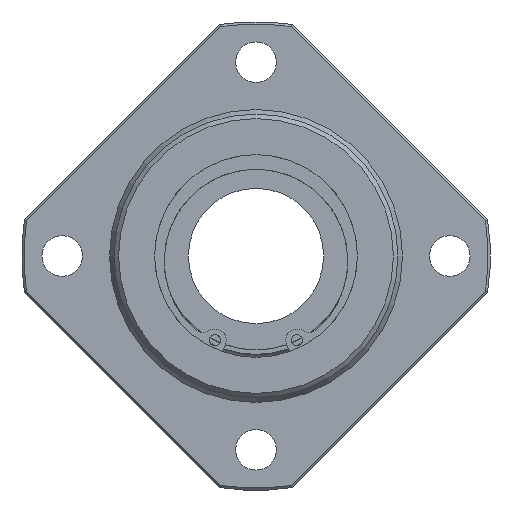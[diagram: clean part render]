
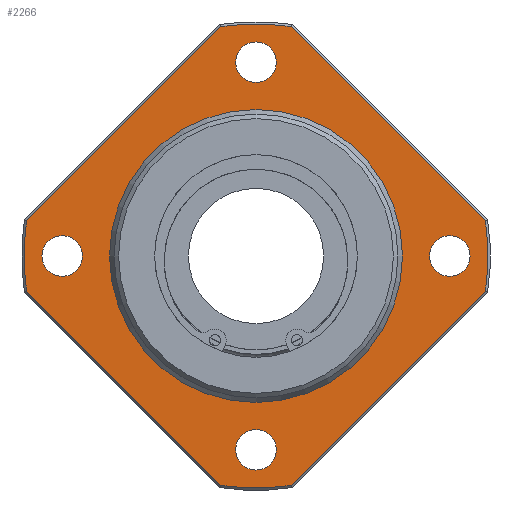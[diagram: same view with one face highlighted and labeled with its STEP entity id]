
A CAD part, left-side view. The second image highlights one B-rep face of the part: STEP entity #2266.
In plain terms, the highlighted planar face has unit normal (-1, 0, 0).
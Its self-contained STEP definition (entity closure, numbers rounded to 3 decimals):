
#1953=CARTESIAN_POINT('',(138.0,-7.781,-50.909));
#1954=VERTEX_POINT('',#1953);
#1962=CARTESIAN_POINT('',(138.0,7.781,-50.909));
#1963=VERTEX_POINT('',#1962);
#1964=CARTESIAN_POINT('',(138.0,0.0,0.0));
#1965=DIRECTION('',(1.0,0.0,0.0));
#1966=DIRECTION('',(0.0,0.0,-1.0));
#1967=AXIS2_PLACEMENT_3D('',#1964,#1965,#1966);
#1968=CIRCLE('',#1967,51.5);
#1969=EDGE_CURVE('',#1954,#1963,#1968,.T.);
#1988=CARTESIAN_POINT('',(138.0,50.909,-7.781));
#1989=VERTEX_POINT('',#1988);
#1990=CARTESIAN_POINT('',(138.0,7.781,-50.909));
#1991=DIRECTION('',(0.0,0.707,0.707));
#1992=VECTOR('',#1991,60.992);
#1993=LINE('',#1990,#1992);
#1994=EDGE_CURVE('',#1963,#1989,#1993,.T.);
#2021=CARTESIAN_POINT('',(138.0,50.909,7.781));
#2022=VERTEX_POINT('',#2021);
#2023=CARTESIAN_POINT('',(138.0,0.0,0.0));
#2024=DIRECTION('',(1.0,0.0,0.0));
#2025=DIRECTION('',(0.0,0.0,1.0));
#2026=AXIS2_PLACEMENT_3D('',#2023,#2024,#2025);
#2027=CIRCLE('',#2026,51.5);
#2028=EDGE_CURVE('',#1989,#2022,#2027,.T.);
#2054=CARTESIAN_POINT('',(138.0,7.781,50.909));
#2055=VERTEX_POINT('',#2054);
#2056=CARTESIAN_POINT('',(138.0,50.909,7.781));
#2057=DIRECTION('',(0.0,-0.707,0.707));
#2058=VECTOR('',#2057,60.992);
#2059=LINE('',#2056,#2058);
#2060=EDGE_CURVE('',#2022,#2055,#2059,.T.);
#2087=CARTESIAN_POINT('',(138.0,-7.781,50.909));
#2088=VERTEX_POINT('',#2087);
#2089=CARTESIAN_POINT('',(138.0,0.0,0.0));
#2090=DIRECTION('',(1.0,0.0,0.0));
#2091=DIRECTION('',(0.0,0.0,1.0));
#2092=AXIS2_PLACEMENT_3D('',#2089,#2090,#2091);
#2093=CIRCLE('',#2092,51.5);
#2094=EDGE_CURVE('',#2055,#2088,#2093,.T.);
#2118=CARTESIAN_POINT('',(138.0,-50.909,7.781));
#2119=VERTEX_POINT('',#2118);
#2120=CARTESIAN_POINT('',(138.0,-7.781,50.909));
#2121=DIRECTION('',(0.0,-0.707,-0.707));
#2122=VECTOR('',#2121,60.992);
#2123=LINE('',#2120,#2122);
#2124=EDGE_CURVE('',#2088,#2119,#2123,.T.);
#2143=CARTESIAN_POINT('',(138.0,-50.909,-7.781));
#2144=VERTEX_POINT('',#2143);
#2145=CARTESIAN_POINT('',(138.0,0.0,0.0));
#2146=DIRECTION('',(1.0,0.0,0.0));
#2147=DIRECTION('',(0.0,0.0,1.0));
#2148=AXIS2_PLACEMENT_3D('',#2145,#2146,#2147);
#2149=CIRCLE('',#2148,51.5);
#2150=EDGE_CURVE('',#2119,#2144,#2149,.T.);
#2169=CARTESIAN_POINT('',(138.0,-50.909,-7.781));
#2170=DIRECTION('',(0.0,0.707,-0.707));
#2171=VECTOR('',#2170,60.992);
#2172=LINE('',#2169,#2171);
#2173=EDGE_CURVE('',#2144,#1954,#2172,.T.);
#2196=CARTESIAN_POINT('',(138.0,0.0,42.25));
#2197=DIRECTION('',(-1.0,0.0,0.0));
#2198=DIRECTION('',(0.0,0.0,1.0));
#2199=AXIS2_PLACEMENT_3D('',#2196,#2197,#2198);
#2200=PLANE('',#2199);
#2201=ORIENTED_EDGE('',*,*,#1969,.F.);
#2202=ORIENTED_EDGE('',*,*,#2173,.F.);
#2203=ORIENTED_EDGE('',*,*,#2150,.F.);
#2204=ORIENTED_EDGE('',*,*,#2124,.F.);
#2205=ORIENTED_EDGE('',*,*,#2094,.F.);
#2206=ORIENTED_EDGE('',*,*,#2060,.F.);
#2207=ORIENTED_EDGE('',*,*,#2028,.F.);
#2208=ORIENTED_EDGE('',*,*,#1994,.F.);
#2209=EDGE_LOOP('',(#2201,#2202,#2203,#2204,#2205,#2206,#2207,#2208));
#2210=FACE_OUTER_BOUND('',#2209,.T.);
#2211=CARTESIAN_POINT('',(138.0,0.0,32.5));
#2212=VERTEX_POINT('',#2211);
#2213=CARTESIAN_POINT('',(138.0,0.0,0.0));
#2214=DIRECTION('',(-1.0,0.0,0.0));
#2215=DIRECTION('',(0.0,0.0,1.0));
#2216=AXIS2_PLACEMENT_3D('',#2213,#2214,#2215);
#2217=CIRCLE('',#2216,32.5);
#2218=EDGE_CURVE('',#2212,#2212,#2217,.T.);
#2219=ORIENTED_EDGE('',*,*,#2218,.F.);
#2220=EDGE_LOOP('',(#2219));
#2221=FACE_BOUND('',#2220,.T.);
#2222=CARTESIAN_POINT('',(138.0,4.5,43.0));
#2223=VERTEX_POINT('',#2222);
#2224=CARTESIAN_POINT('',(138.,0.,43.0));
#2225=DIRECTION('',(1.0,0.0,0.0));
#2226=DIRECTION('',(0.0,1.0,0.0));
#2227=AXIS2_PLACEMENT_3D('',#2224,#2225,#2226);
#2228=CIRCLE('',#2227,4.5);
#2229=EDGE_CURVE('',#2223,#2223,#2228,.T.);
#2230=ORIENTED_EDGE('',*,*,#2229,.T.);
#2231=EDGE_LOOP('',(#2230));
#2232=FACE_BOUND('',#2231,.T.);
#2233=CARTESIAN_POINT('',(138.0,-43.0,4.5));
#2234=VERTEX_POINT('',#2233);
#2235=CARTESIAN_POINT('',(138.,-43.0,0.));
#2236=DIRECTION('',(1.0,0.0,0.0));
#2237=DIRECTION('',(0.0,0.0,1.0));
#2238=AXIS2_PLACEMENT_3D('',#2235,#2236,#2237);
#2239=CIRCLE('',#2238,4.5);
#2240=EDGE_CURVE('',#2234,#2234,#2239,.T.);
#2241=ORIENTED_EDGE('',*,*,#2240,.T.);
#2242=EDGE_LOOP('',(#2241));
#2243=FACE_BOUND('',#2242,.T.);
#2244=CARTESIAN_POINT('',(138.0,-4.5,-43.0));
#2245=VERTEX_POINT('',#2244);
#2246=CARTESIAN_POINT('',(138.,0.,-43.0));
#2247=DIRECTION('',(1.0,0.0,0.0));
#2248=DIRECTION('',(0.0,-1.0,0.0));
#2249=AXIS2_PLACEMENT_3D('',#2246,#2247,#2248);
#2250=CIRCLE('',#2249,4.5);
#2251=EDGE_CURVE('',#2245,#2245,#2250,.T.);
#2252=ORIENTED_EDGE('',*,*,#2251,.T.);
#2253=EDGE_LOOP('',(#2252));
#2254=FACE_BOUND('',#2253,.T.);
#2255=CARTESIAN_POINT('',(138.0,43.0,-4.5));
#2256=VERTEX_POINT('',#2255);
#2257=CARTESIAN_POINT('',(138.,43.0,0.));
#2258=DIRECTION('',(1.0,0.0,0.0));
#2259=DIRECTION('',(0.0,0.0,-1.0));
#2260=AXIS2_PLACEMENT_3D('',#2257,#2258,#2259);
#2261=CIRCLE('',#2260,4.5);
#2262=EDGE_CURVE('',#2256,#2256,#2261,.T.);
#2263=ORIENTED_EDGE('',*,*,#2262,.T.);
#2264=EDGE_LOOP('',(#2263));
#2265=FACE_BOUND('',#2264,.T.);
#2266=ADVANCED_FACE('',(#2210,#2221,#2232,#2243,#2254,#2265),#2200,.T.);
